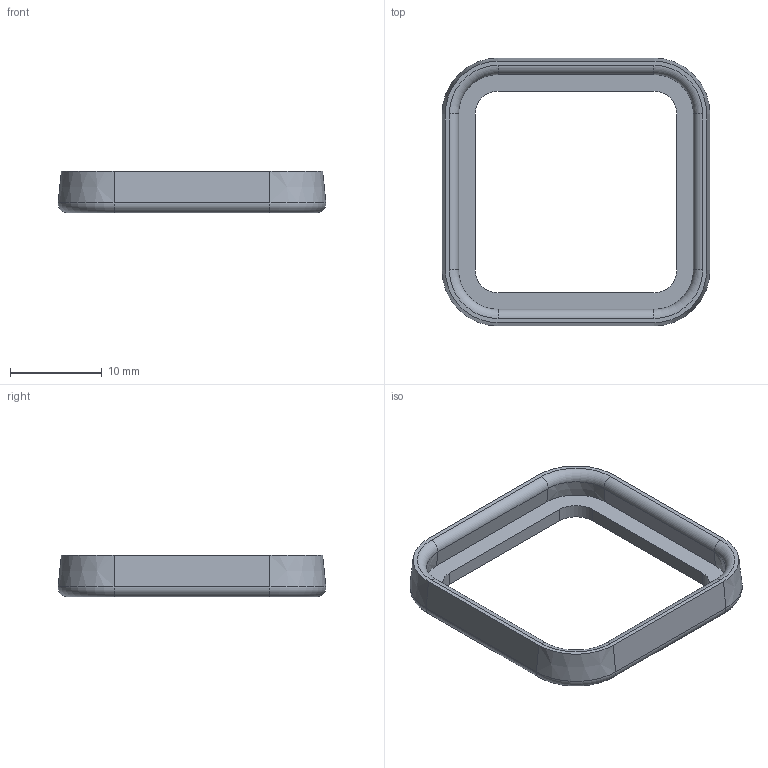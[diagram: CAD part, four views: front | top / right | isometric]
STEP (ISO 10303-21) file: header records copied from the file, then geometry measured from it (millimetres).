
FILE_DESCRIPTION( ( 'Hüllmodell' ), '1' );
FILE_NAME( 'C:/CAX-temp/hüllmodelle/Halupczok/731-531-999.stp', 'Unknown', ( 'tmartin' ), ( 'Belden' ), 'PSStep 10.1', 'Unknown', ' ' );
FILE_SCHEMA( ( 'AUTOMOTIVE_DESIGN { 1 0 10303 214 1 1 1 1 }' ) );
Length unit declared in the file: millimetre
Products named in the file (1): 1
Bounding box: 29.2 x 29.2 x 4.5 mm (x, y, z)
Volume: 930.5 mm3; surface area: 1468.9 mm2
Topology: 1 solids, 1 shells, 43 faces, 104 edges, 64 vertices
Faces by surface type: plane 15, cylinder 12, cone 8, torus 8
Entity records: 1622 total; most frequent: DIRECTION 240, CARTESIAN_POINT 212, ORIENTED_EDGE 208, EDGE_CURVE 104, AXIS2_PLACEMENT_3D 92, VERTEX_POINT 64, LINE 56, VECTOR 56
